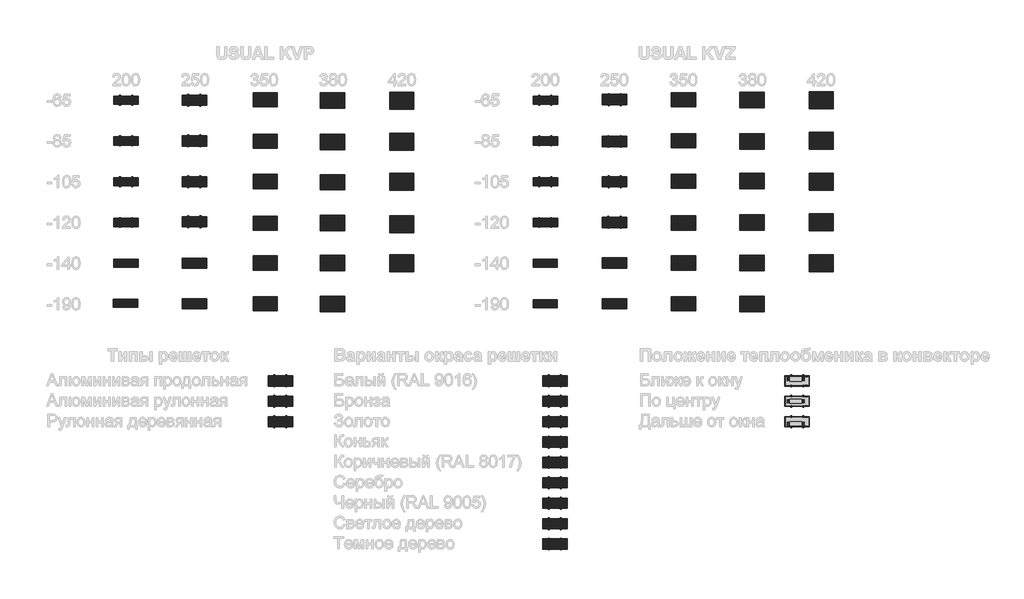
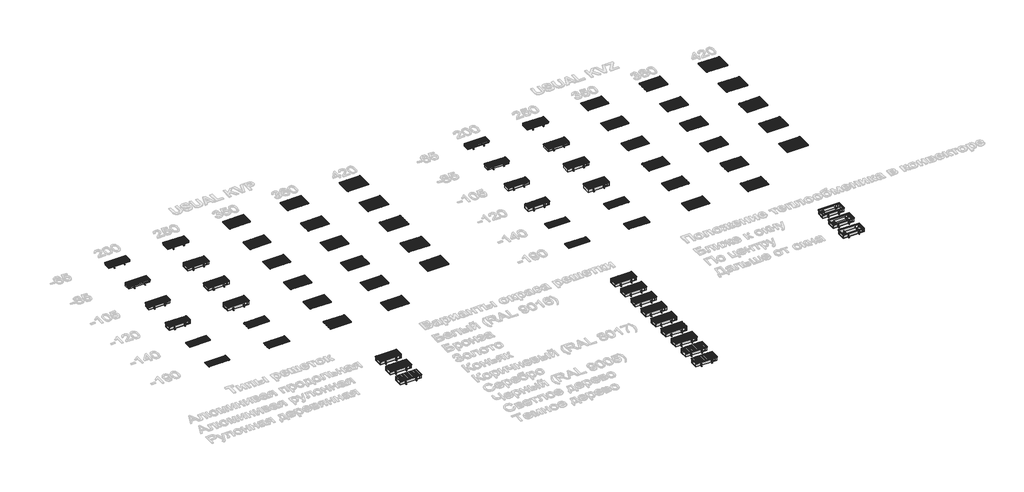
# One storey, part 1 of 12: 101 proxies.
"""IFC4 building model written with IfcOpenShell, lengths in millimetres."""

from ifc_helpers import new_model, si_unit, origin, place, context, project, spatial, transform, mapped, element, save
from components import mechanical_equipment_e06667c6, mechanical_equipment_3e8f2376, mechanical_equipment_2bb92c4f, mechanical_equipment_5972c187, mechanical_equipment_37fe95d5, mechanical_equipment_b3972e34, mechanical_equipment_829e7b9b, mechanical_equipment_6586b256, mechanical_equipment_ec1114a2, mechanical_equipment_845689bd, mechanical_equipment_a27507a9, mechanical_equipment_65e398eb, mechanical_equipment_b7342399, mechanical_equipment_46b1b714, mechanical_equipment_595e6932, mechanical_equipment_720d89d8, mechanical_equipment_f0117539, mechanical_equipment_2afb26c2, kvp_200_65_299f4ea4, kvp_200_85_9face046, kvp_250_65_a84a4c21, kvz_200_65_8321f284, kvz_200_85_5eb95e34, kvz_250_65_78995d62, kvz_250_85_78aa8f4b

model = new_model("IFC4")

# Units and contexts
model_context = context("Model", 3, world=origin())
ifc_project = project(units=[si_unit("LENGTHUNIT", "METRE", prefix="MILLI")], contexts=[model_context])

# Site, building, storey
site = spatial("IfcSite", under=ifc_project)
building = spatial("IfcBuilding", under=site)
storey = spatial("IfcBuildingStorey", under=building, Name="Уровень 1", Elevation=0.0)

# Proxies
placement = place(None, origin())
mechanical_equipment_shape = mechanical_equipment_e06667c6(model_context)
element("IfcBuildingElementProxy", 1, Name="♦ : РАП_Алюминиевая продольная/ Белый RAL 9016", ObjectType="♦ : РАП_Алюминиевая продольная/ Белый RAL 9016", at=placement, inside=storey, context=model_context, shape_type="MappedRepresentation", body=[
    mapped(mechanical_equipment_shape, transform((1678.8586562, -5908.0213186, 0.0), x_axis=(1.0, 0.0, 0.0), y_axis=(0.0, 1.0, 0.0), z_axis=(0.0, 0.0, 1.0))),
])
element("IfcBuildingElementProxy", 2, Name="♦ : РАП_Алюминиевая продольная/ Белый RAL 9016", ObjectType="♦ : РАП_Алюминиевая продольная/ Белый RAL 9016", at=placement, inside=storey, context=model_context, shape_type="MappedRepresentation", body=[
    mapped(mechanical_equipment_shape, transform((1678.8586562, -6908.0213186, 0.0), x_axis=(1.0, 0.0, 0.0), y_axis=(0.0, 1.0, 0.0), z_axis=(0.0, 0.0, 1.0))),
])
element("IfcBuildingElementProxy", 3, Name="♦ : РАП_Алюминиевая продольная/ Белый RAL 9016", ObjectType="♦ : РАП_Алюминиевая продольная/ Белый RAL 9016", at=placement, inside=storey, context=model_context, shape_type="MappedRepresentation", body=[
    mapped(mechanical_equipment_shape, transform((1678.8586562, -7908.0213186, 0.0), x_axis=(1.0, 0.0, 0.0), y_axis=(0.0, 1.0, 0.0), z_axis=(0.0, 0.0, 1.0))),
])
element("IfcBuildingElementProxy", 4, Name="♦ : РАП_Алюминиевая продольная/ Белый RAL 9016", ObjectType="♦ : РАП_Алюминиевая продольная/ Белый RAL 9016", at=placement, inside=storey, context=model_context, shape_type="MappedRepresentation", body=[
    mapped(mechanical_equipment_shape, transform((1678.8586562, -8908.0213186, 0.0), x_axis=(1.0, 0.0, 0.0), y_axis=(0.0, 1.0, 0.0), z_axis=(0.0, 0.0, 1.0))),
])
element("IfcBuildingElementProxy", 5, Name="♦ : РАП_Алюминиевая продольная/ Белый RAL 9016", ObjectType="♦ : РАП_Алюминиевая продольная/ Белый RAL 9016", at=placement, inside=storey, context=model_context, shape_type="MappedRepresentation", body=[
    mapped(mechanical_equipment_shape, transform((11963.3373668, -5907.6889585, 0.0), x_axis=(1.0, 0.0, 0.0), y_axis=(0.0, 1.0, 0.0), z_axis=(0.0, 0.0, 1.0))),
])
element("IfcBuildingElementProxy", 6, Name="♦ : РАП_Алюминиевая продольная/ Белый RAL 9016", ObjectType="♦ : РАП_Алюминиевая продольная/ Белый RAL 9016", at=placement, inside=storey, context=model_context, shape_type="MappedRepresentation", body=[
    mapped(mechanical_equipment_shape, transform((11963.3373668, -6907.6889585, 0.0), x_axis=(1.0, 0.0, 0.0), y_axis=(0.0, 1.0, 0.0), z_axis=(0.0, 0.0, 1.0))),
])
element("IfcBuildingElementProxy", 7, Name="♦ : РАП_Алюминиевая продольная/ Белый RAL 9016", ObjectType="♦ : РАП_Алюминиевая продольная/ Белый RAL 9016", at=placement, inside=storey, context=model_context, shape_type="MappedRepresentation", body=[
    mapped(mechanical_equipment_shape, transform((11963.3373668, -7907.6889585, 0.0), x_axis=(1.0, 0.0, 0.0), y_axis=(0.0, 1.0, 0.0), z_axis=(0.0, 0.0, 1.0))),
])
element("IfcBuildingElementProxy", 8, Name="♦ : РАП_Алюминиевая продольная/ Белый RAL 9016", ObjectType="♦ : РАП_Алюминиевая продольная/ Белый RAL 9016", at=placement, inside=storey, context=model_context, shape_type="MappedRepresentation", body=[
    mapped(mechanical_equipment_shape, transform((11963.3373668, -8907.6889585, 0.0), x_axis=(1.0, 0.0, 0.0), y_axis=(0.0, 1.0, 0.0), z_axis=(0.0, 0.0, 1.0))),
])
element("IfcBuildingElementProxy", 9, Name="♦ : РАП_Алюминиевая продольная/ Белый RAL 9016", ObjectType="♦ : РАП_Алюминиевая продольная/ Белый RAL 9016", at=placement, inside=storey, context=model_context, shape_type="MappedRepresentation", body=[
    mapped(mechanical_equipment_shape, transform((1678.8586562, -9903.1136263, 0.0), x_axis=(1.0, 0.0, 0.0), y_axis=(0.0, 1.0, 0.0), z_axis=(0.0, 0.0, 1.0))),
])
element("IfcBuildingElementProxy", 10, Name="♦ : РАП_Алюминиевая продольная/ Белый RAL 9016", ObjectType="♦ : РАП_Алюминиевая продольная/ Белый RAL 9016", at=placement, inside=storey, context=model_context, shape_type="MappedRepresentation", body=[
    mapped(mechanical_equipment_shape, transform((1667.4990621, -10887.3301613, 0.0), x_axis=(1.0, 0.0, 0.0), y_axis=(0.0, 1.0, 0.0), z_axis=(0.0, 0.0, 1.0))),
])
element("IfcBuildingElementProxy", 11, Name="♦ : РАП_Алюминиевая продольная/ Белый RAL 9016", ObjectType="♦ : РАП_Алюминиевая продольная/ Белый RAL 9016", at=placement, inside=storey, context=model_context, shape_type="MappedRepresentation", body=[
    mapped(mechanical_equipment_shape, transform((11963.3373668, -10902.7812662, 0.0), x_axis=(1.0, 0.0, 0.0), y_axis=(0.0, 1.0, 0.0), z_axis=(0.0, 0.0, 1.0))),
])
element("IfcBuildingElementProxy", 12, Name="♦ : РАП_Алюминиевая продольная/ Белый RAL 9016", ObjectType="♦ : РАП_Алюминиевая продольная/ Белый RAL 9016", at=placement, inside=storey, context=model_context, shape_type="MappedRepresentation", body=[
    mapped(mechanical_equipment_shape, transform((11963.3373668, -9902.7812662, 0.0), x_axis=(1.0, 0.0, 0.0), y_axis=(0.0, 1.0, 0.0), z_axis=(0.0, 0.0, 1.0))),
])
mechanical_equipment_2_shape = mechanical_equipment_3e8f2376(model_context)
element("IfcBuildingElementProxy", 13, Name="TECHNO_Конвектор встраиваемый_Usual_KVZ-200_85-105-120 : KVZ 200-105", ObjectType="TECHNO_Конвектор встраиваемый_Usual_KVZ-200_85-105-120 : KVZ 200-105", at=placement, inside=storey, context=model_context, shape_type="MappedRepresentation", body=[
    mapped(mechanical_equipment_2_shape, transform((11963.3373668, -7907.6889585, 0.0), x_axis=(1.0, 0.0, 0.0), y_axis=(0.0, 1.0, 0.0), z_axis=(0.0, 0.0, 1.0))),
])
mechanical_equipment_3_shape = mechanical_equipment_2bb92c4f(model_context)
element("IfcBuildingElementProxy", 14, Name="TECHNO_Конвектор встраиваемый_Usual_KVZ-200_85-105-120 : KVZ 200-120", ObjectType="TECHNO_Конвектор встраиваемый_Usual_KVZ-200_85-105-120 : KVZ 200-120", at=placement, inside=storey, context=model_context, shape_type="MappedRepresentation", body=[
    mapped(mechanical_equipment_3_shape, transform((11963.3373668, -8907.6889585, 0.0), x_axis=(1.0, 0.0, 0.0), y_axis=(0.0, 1.0, 0.0), z_axis=(0.0, 0.0, 1.0))),
])
mechanical_equipment_4_shape = mechanical_equipment_5972c187(model_context)
element("IfcBuildingElementProxy", 15, Name="♦ : РАП_Алюминиевая продольная/ Белый RAL 9016", ObjectType="♦ : РАП_Алюминиевая продольная/ Белый RAL 9016", at=placement, inside=storey, context=model_context, shape_type="MappedRepresentation", body=[
    mapped(mechanical_equipment_4_shape, transform((3356.4382565, -5907.7489204, 0.0), x_axis=(1.0, 0.0, 0.0), y_axis=(0.0, 1.0, 0.0), z_axis=(0.0, 0.0, 1.0))),
])
element("IfcBuildingElementProxy", 16, Name="♦ : РАП_Алюминиевая продольная/ Белый RAL 9016", ObjectType="♦ : РАП_Алюминиевая продольная/ Белый RAL 9016", at=placement, inside=storey, context=model_context, shape_type="MappedRepresentation", body=[
    mapped(mechanical_equipment_4_shape, transform((3356.4382565, -6907.7489204, 0.0), x_axis=(1.0, 0.0, 0.0), y_axis=(0.0, 1.0, 0.0), z_axis=(0.0, 0.0, 1.0))),
])
element("IfcBuildingElementProxy", 17, Name="♦ : РАП_Алюминиевая продольная/ Белый RAL 9016", ObjectType="♦ : РАП_Алюминиевая продольная/ Белый RAL 9016", at=placement, inside=storey, context=model_context, shape_type="MappedRepresentation", body=[
    mapped(mechanical_equipment_4_shape, transform((3356.4382565, -7907.7489204, 0.0), x_axis=(1.0, 0.0, 0.0), y_axis=(0.0, 1.0, 0.0), z_axis=(0.0, 0.0, 1.0))),
])
element("IfcBuildingElementProxy", 18, Name="♦ : РАП_Алюминиевая продольная/ Белый RAL 9016", ObjectType="♦ : РАП_Алюминиевая продольная/ Белый RAL 9016", at=placement, inside=storey, context=model_context, shape_type="MappedRepresentation", body=[
    mapped(mechanical_equipment_4_shape, transform((3356.4382565, -8893.4783322, 0.0), x_axis=(1.0, 0.0, 0.0), y_axis=(0.0, 1.0, 0.0), z_axis=(0.0, 0.0, 1.0))),
])
element("IfcBuildingElementProxy", 19, Name="♦ : РАП_Алюминиевая продольная/ Белый RAL 9016", ObjectType="♦ : РАП_Алюминиевая продольная/ Белый RAL 9016", at=placement, inside=storey, context=model_context, shape_type="MappedRepresentation", body=[
    mapped(mechanical_equipment_4_shape, transform((13662.3006135, -5893.145972, 0.0), x_axis=(1.0, 0.0, 0.0), y_axis=(0.0, 1.0, 0.0), z_axis=(0.0, 0.0, 1.0))),
])
element("IfcBuildingElementProxy", 20, Name="♦ : РАП_Алюминиевая продольная/ Белый RAL 9016", ObjectType="♦ : РАП_Алюминиевая продольная/ Белый RAL 9016", at=placement, inside=storey, context=model_context, shape_type="MappedRepresentation", body=[
    mapped(mechanical_equipment_4_shape, transform((13662.3006135, -6921.6871485, 0.0), x_axis=(1.0, 0.0, 0.0), y_axis=(0.0, 1.0, 0.0), z_axis=(0.0, 0.0, 1.0))),
])
element("IfcBuildingElementProxy", 21, Name="♦ : РАП_Алюминиевая продольная/ Белый RAL 9016", ObjectType="♦ : РАП_Алюминиевая продольная/ Белый RAL 9016", at=placement, inside=storey, context=model_context, shape_type="MappedRepresentation", body=[
    mapped(mechanical_equipment_4_shape, transform((13662.3006135, -7907.4165603, 0.0), x_axis=(1.0, 0.0, 0.0), y_axis=(0.0, 1.0, 0.0), z_axis=(0.0, 0.0, 1.0))),
])
element("IfcBuildingElementProxy", 22, Name="♦ : РАП_Алюминиевая продольная/ Белый RAL 9016", ObjectType="♦ : РАП_Алюминиевая продольная/ Белый RAL 9016", at=placement, inside=storey, context=model_context, shape_type="MappedRepresentation", body=[
    mapped(mechanical_equipment_4_shape, transform((13662.3006135, -8907.4165603, 0.0), x_axis=(1.0, 0.0, 0.0), y_axis=(0.0, 1.0, 0.0), z_axis=(0.0, 0.0, 1.0))),
])
element("IfcBuildingElementProxy", 23, Name="♦ : РАП_Алюминиевая продольная/ Белый RAL 9016", ObjectType="♦ : РАП_Алюминиевая продольная/ Белый RAL 9016", at=placement, inside=storey, context=model_context, shape_type="MappedRepresentation", body=[
    mapped(mechanical_equipment_4_shape, transform((3355.0272951, -10903.1136263, -3.7), x_axis=(1.0, 0.0, 0.0), y_axis=(0.0, 1.0, 0.0), z_axis=(0.0, 0.0, 1.0))),
])
element("IfcBuildingElementProxy", 24, Name="♦ : РАП_Алюминиевая продольная/ Белый RAL 9016", ObjectType="♦ : РАП_Алюминиевая продольная/ Белый RAL 9016", at=placement, inside=storey, context=model_context, shape_type="MappedRepresentation", body=[
    mapped(mechanical_equipment_4_shape, transform((3356.4382565, -9903.1136263, 0.0), x_axis=(1.0, 0.0, 0.0), y_axis=(0.0, 1.0, 0.0), z_axis=(0.0, 0.0, 1.0))),
])
element("IfcBuildingElementProxy", 25, Name="♦ : РАП_Алюминиевая продольная/ Белый RAL 9016", ObjectType="♦ : РАП_Алюминиевая продольная/ Белый RAL 9016", at=placement, inside=storey, context=model_context, shape_type="MappedRepresentation", body=[
    mapped(mechanical_equipment_4_shape, transform((13662.3006135, -9902.7812662, 0.0), x_axis=(1.0, 0.0, 0.0), y_axis=(0.0, 1.0, 0.0), z_axis=(0.0, 0.0, 1.0))),
])
element("IfcBuildingElementProxy", 26, Name="♦ : РАП_Алюминиевая продольная/ Белый RAL 9016", ObjectType="♦ : РАП_Алюминиевая продольная/ Белый RAL 9016", at=placement, inside=storey, context=model_context, shape_type="MappedRepresentation", body=[
    mapped(mechanical_equipment_4_shape, transform((13662.3006135, -10902.7812662, 0.0), x_axis=(1.0, 0.0, 0.0), y_axis=(0.0, 1.0, 0.0), z_axis=(0.0, 0.0, 1.0))),
])
element("IfcBuildingElementProxy", 27, Name="♦ : РАП_Алюминиевая продольная/ Белый RAL 9016", ObjectType="♦ : РАП_Алюминиевая продольная/ Белый RAL 9016", at=placement, inside=storey, context=model_context, shape_type="MappedRepresentation", body=[
    mapped(mechanical_equipment_4_shape, transform((12196.577441, -12794.989217, 0.0), x_axis=(1.0, 0.0, 0.0), y_axis=(0.0, 1.0, 0.0), z_axis=(0.0, 0.0, 1.0))),
])
element("IfcBuildingElementProxy", 28, Name="♦ : РАП_Алюминиевая продольная/ Белый RAL 9016", ObjectType="♦ : РАП_Алюминиевая продольная/ Белый RAL 9016", at=placement, inside=storey, context=model_context, shape_type="MappedRepresentation", body=[
    mapped(mechanical_equipment_4_shape, transform((5464.577441, -12794.989217, 0.0), x_axis=(1.0, 0.0, 0.0), y_axis=(0.0, 1.0, 0.0), z_axis=(0.0, 0.0, 1.0))),
])
mechanical_equipment_5_shape = mechanical_equipment_37fe95d5(model_context)
element("IfcBuildingElementProxy", 29, Name="TECHNO_Конвектор встраиваемый_Usual_KVZ-250_85-105-120 : KVZ 250-105", ObjectType="TECHNO_Конвектор встраиваемый_Usual_KVZ-250_85-105-120 : KVZ 250-105", at=placement, inside=storey, context=model_context, shape_type="MappedRepresentation", body=[
    mapped(mechanical_equipment_5_shape, transform((13662.3006135, -7907.4165603, 0.0), x_axis=(1.0, 0.0, 0.0), y_axis=(0.0, 1.0, 0.0), z_axis=(0.0, 0.0, 1.0))),
])
mechanical_equipment_6_shape = mechanical_equipment_b3972e34(model_context)
element("IfcBuildingElementProxy", 30, Name="TECHNO_Конвектор встраиваемый_Usual_KVZ-250_85-105-120 : KVZ 250-120", ObjectType="TECHNO_Конвектор встраиваемый_Usual_KVZ-250_85-105-120 : KVZ 250-120", at=placement, inside=storey, context=model_context, shape_type="MappedRepresentation", body=[
    mapped(mechanical_equipment_6_shape, transform((13662.3006135, -8907.4165603, 0.0), x_axis=(1.0, 0.0, 0.0), y_axis=(0.0, 1.0, 0.0), z_axis=(0.0, 0.0, 1.0))),
])
mechanical_equipment_7_shape = mechanical_equipment_829e7b9b(model_context)
element("IfcBuildingElementProxy", 31, Name="♦ : РАП_Алюминиевая продольная/ Белый RAL 9016", ObjectType="♦ : РАП_Алюминиевая продольная/ Белый RAL 9016", at=placement, inside=storey, context=model_context, shape_type="MappedRepresentation", body=[
    mapped(mechanical_equipment_7_shape, transform((5094.2112296, -5900.6136263, 0.0), x_axis=(1.0, 0.0, 0.0), y_axis=(0.0, 1.0, 0.0), z_axis=(0.0, 0.0, 1.0))),
])
element("IfcBuildingElementProxy", 32, Name="♦ : РАП_Алюминиевая продольная/ Белый RAL 9016", ObjectType="♦ : РАП_Алюминиевая продольная/ Белый RAL 9016", at=placement, inside=storey, context=model_context, shape_type="MappedRepresentation", body=[
    mapped(mechanical_equipment_7_shape, transform((5094.2112296, -6914.8886263, 0.0), x_axis=(1.0, 0.0, 0.0), y_axis=(0.0, 1.0, 0.0), z_axis=(0.0, 0.0, 1.0))),
])
element("IfcBuildingElementProxy", 33, Name="♦ : РАП_Алюминиевая продольная/ Белый RAL 9016", ObjectType="♦ : РАП_Алюминиевая продольная/ Белый RAL 9016", at=placement, inside=storey, context=model_context, shape_type="MappedRepresentation", body=[
    mapped(mechanical_equipment_7_shape, transform((5095.4112296, -7900.6136263, 0.0), x_axis=(1.0, 0.0, 0.0), y_axis=(0.0, 1.0, 0.0), z_axis=(0.0, 0.0, 1.0))),
])
element("IfcBuildingElementProxy", 34, Name="♦ : РАП_Алюминиевая продольная/ Белый RAL 9016", ObjectType="♦ : РАП_Алюминиевая продольная/ Белый RAL 9016", at=placement, inside=storey, context=model_context, shape_type="MappedRepresentation", body=[
    mapped(mechanical_equipment_7_shape, transform((5095.4112296, -8929.1636263, 0.0), x_axis=(1.0, 0.0, 0.0), y_axis=(0.0, 1.0, 0.0), z_axis=(0.0, 0.0, 1.0))),
])
element("IfcBuildingElementProxy", 35, Name="♦ : РАП_Алюминиевая продольная/ Белый RAL 9016", ObjectType="♦ : РАП_Алюминиевая продольная/ Белый RAL 9016", at=placement, inside=storey, context=model_context, shape_type="MappedRepresentation", body=[
    mapped(mechanical_equipment_7_shape, transform((15351.7158664, -5900.2812662, 0.0), x_axis=(1.0, 0.0, 0.0), y_axis=(0.0, 1.0, 0.0), z_axis=(0.0, 0.0, 1.0))),
])
element("IfcBuildingElementProxy", 36, Name="♦ : РАП_Алюминиевая продольная/ Белый RAL 9016", ObjectType="♦ : РАП_Алюминиевая продольная/ Белый RAL 9016", at=placement, inside=storey, context=model_context, shape_type="MappedRepresentation", body=[
    mapped(mechanical_equipment_7_shape, transform((15351.7158664, -6900.2812662, 0.0), x_axis=(1.0, 0.0, 0.0), y_axis=(0.0, 1.0, 0.0), z_axis=(0.0, 0.0, 1.0))),
])
element("IfcBuildingElementProxy", 37, Name="♦ : РАП_Алюминиевая продольная/ Белый RAL 9016", ObjectType="♦ : РАП_Алюминиевая продольная/ Белый RAL 9016", at=placement, inside=storey, context=model_context, shape_type="MappedRepresentation", body=[
    mapped(mechanical_equipment_7_shape, transform((15351.7158664, -7900.2812662, 0.0), x_axis=(1.0, 0.0, 0.0), y_axis=(0.0, 1.0, 0.0), z_axis=(0.0, 0.0, 1.0))),
])
element("IfcBuildingElementProxy", 38, Name="♦ : РАП_Алюминиевая продольная/ Белый RAL 9016", ObjectType="♦ : РАП_Алюминиевая продольная/ Белый RAL 9016", at=placement, inside=storey, context=model_context, shape_type="MappedRepresentation", body=[
    mapped(mechanical_equipment_7_shape, transform((15351.7158664, -8919.8989417, 0.0), x_axis=(1.0, 0.0, 0.0), y_axis=(0.0, 1.0, 0.0), z_axis=(0.0, 0.0, 1.0))),
])
element("IfcBuildingElementProxy", 39, Name="♦ : РАП_Алюминиевая продольная/ Белый RAL 9016", ObjectType="♦ : РАП_Алюминиевая продольная/ Белый RAL 9016", at=placement, inside=storey, context=model_context, shape_type="MappedRepresentation", body=[
    mapped(mechanical_equipment_7_shape, transform((5095.4112296, -10903.1136263, 0.0), x_axis=(1.0, 0.0, 0.0), y_axis=(0.0, 1.0, 0.0), z_axis=(0.0, 0.0, 1.0))),
])
element("IfcBuildingElementProxy", 40, Name="♦ : РАП_Алюминиевая продольная/ Белый RAL 9016", ObjectType="♦ : РАП_Алюминиевая продольная/ Белый RAL 9016", at=placement, inside=storey, context=model_context, shape_type="MappedRepresentation", body=[
    mapped(mechanical_equipment_7_shape, transform((5095.4112296, -9903.1136263, 0.0), x_axis=(1.0, 0.0, 0.0), y_axis=(0.0, 1.0, 0.0), z_axis=(0.0, 0.0, 1.0))),
])
element("IfcBuildingElementProxy", 41, Name="♦ : РАП_Алюминиевая продольная/ Белый RAL 9016", ObjectType="♦ : РАП_Алюминиевая продольная/ Белый RAL 9016", at=placement, inside=storey, context=model_context, shape_type="MappedRepresentation", body=[
    mapped(mechanical_equipment_7_shape, transform((15351.7158664, -10902.7812662, 0.0), x_axis=(1.0, 0.0, 0.0), y_axis=(0.0, 1.0, 0.0), z_axis=(0.0, 0.0, 1.0))),
])
element("IfcBuildingElementProxy", 42, Name="♦ : РАП_Алюминиевая продольная/ Белый RAL 9016", ObjectType="♦ : РАП_Алюминиевая продольная/ Белый RAL 9016", at=placement, inside=storey, context=model_context, shape_type="MappedRepresentation", body=[
    mapped(mechanical_equipment_7_shape, transform((15351.7158664, -9902.7812662, 0.0), x_axis=(1.0, 0.0, 0.0), y_axis=(0.0, 1.0, 0.0), z_axis=(0.0, 0.0, 1.0))),
])
mechanical_equipment_8_shape = mechanical_equipment_6586b256(model_context)
element("IfcBuildingElementProxy", 43, Name="♦ : РАП_Алюминиевая продольная/ Белый RAL 9016", ObjectType="♦ : РАП_Алюминиевая продольная/ Белый RAL 9016", at=placement, inside=storey, context=model_context, shape_type="MappedRepresentation", body=[
    mapped(mechanical_equipment_8_shape, transform((6740.5682701, -5916.1386263, 0.0), x_axis=(1.0, 0.0, 0.0), y_axis=(0.0, 1.0, 0.0), z_axis=(0.0, 0.0, 1.0))),
])
element("IfcBuildingElementProxy", 44, Name="♦ : РАП_Алюминиевая продольная/ Белый RAL 9016", ObjectType="♦ : РАП_Алюминиевая продольная/ Белый RAL 9016", at=placement, inside=storey, context=model_context, shape_type="MappedRepresentation", body=[
    mapped(mechanical_equipment_8_shape, transform((17037.2497029, -5900.2812662, 0.0), x_axis=(1.0, 0.0, 0.0), y_axis=(0.0, 1.0, 0.0), z_axis=(0.0, 0.0, 1.0))),
])
mechanical_equipment_9_shape = mechanical_equipment_ec1114a2(model_context)
element("IfcBuildingElementProxy", 45, Name="♦ : РАП_Алюминиевая продольная/ Белый RAL 9016", ObjectType="♦ : РАП_Алюминиевая продольная/ Белый RAL 9016", at=placement, inside=storey, context=model_context, shape_type="MappedRepresentation", body=[
    mapped(mechanical_equipment_9_shape, transform((6740.5682701, -6932.7343159, 0.0), x_axis=(1.0, 0.0, 0.0), y_axis=(0.0, 1.0, 0.0), z_axis=(0.0, 0.0, 1.0))),
])
element("IfcBuildingElementProxy", 46, Name="♦ : РАП_Алюминиевая продольная/ Белый RAL 9016", ObjectType="♦ : РАП_Алюминиевая продольная/ Белый RAL 9016", at=placement, inside=storey, context=model_context, shape_type="MappedRepresentation", body=[
    mapped(mechanical_equipment_9_shape, transform((6740.5682701, -7919.8860401, 0.0), x_axis=(1.0, 0.0, 0.0), y_axis=(0.0, 1.0, 0.0), z_axis=(0.0, 0.0, 1.0))),
])
element("IfcBuildingElementProxy", 47, Name="♦ : РАП_Алюминиевая продольная/ Белый RAL 9016", ObjectType="♦ : РАП_Алюминиевая продольная/ Белый RAL 9016", at=placement, inside=storey, context=model_context, shape_type="MappedRepresentation", body=[
    mapped(mechanical_equipment_9_shape, transform((6740.5682701, -8919.8860401, 0.0), x_axis=(1.0, 0.0, 0.0), y_axis=(0.0, 1.0, 0.0), z_axis=(0.0, 0.0, 1.0))),
])
element("IfcBuildingElementProxy", 48, Name="♦ : РАП_Алюминиевая продольная/ Белый RAL 9016", ObjectType="♦ : РАП_Алюминиевая продольная/ Белый RAL 9016", at=placement, inside=storey, context=model_context, shape_type="MappedRepresentation", body=[
    mapped(mechanical_equipment_9_shape, transform((17037.2497029, -6919.55368, 0.0), x_axis=(1.0, 0.0, 0.0), y_axis=(0.0, 1.0, 0.0), z_axis=(0.0, 0.0, 1.0))),
])
element("IfcBuildingElementProxy", 49, Name="♦ : РАП_Алюминиевая продольная/ Белый RAL 9016", ObjectType="♦ : РАП_Алюминиевая продольная/ Белый RAL 9016", at=placement, inside=storey, context=model_context, shape_type="MappedRepresentation", body=[
    mapped(mechanical_equipment_9_shape, transform((17037.2497029, -7893.8571282, 0.0), x_axis=(1.0, 0.0, 0.0), y_axis=(0.0, 1.0, 0.0), z_axis=(0.0, 0.0, 1.0))),
])
element("IfcBuildingElementProxy", 50, Name="♦ : РАП_Алюминиевая продольная/ Белый RAL 9016", ObjectType="♦ : РАП_Алюминиевая продольная/ Белый RAL 9016", at=placement, inside=storey, context=model_context, shape_type="MappedRepresentation", body=[
    mapped(mechanical_equipment_9_shape, transform((17037.2497029, -8906.7054041, 0.0), x_axis=(1.0, 0.0, 0.0), y_axis=(0.0, 1.0, 0.0), z_axis=(0.0, 0.0, 1.0))),
])
element("IfcBuildingElementProxy", 51, Name="♦ : РАП_Алюминиевая продольная/ Белый RAL 9016", ObjectType="♦ : РАП_Алюминиевая продольная/ Белый RAL 9016", at=placement, inside=storey, context=model_context, shape_type="MappedRepresentation", body=[
    mapped(mechanical_equipment_9_shape, transform((6740.5682701, -9903.1136263, -2.0), x_axis=(1.0, 0.0, 0.0), y_axis=(0.0, 1.0, 0.0), z_axis=(0.0, 0.0, 1.0))),
])
element("IfcBuildingElementProxy", 52, Name="♦ : РАП_Алюминиевая продольная/ Белый RAL 9016", ObjectType="♦ : РАП_Алюминиевая продольная/ Белый RAL 9016", at=placement, inside=storey, context=model_context, shape_type="MappedRepresentation", body=[
    mapped(mechanical_equipment_9_shape, transform((6740.5682701, -10903.1136263, -2.0), x_axis=(1.0, 0.0, 0.0), y_axis=(0.0, 1.0, 0.0), z_axis=(0.0, 0.0, 1.0))),
])
element("IfcBuildingElementProxy", 53, Name="♦ : РАП_Алюминиевая продольная/ Белый RAL 9016", ObjectType="♦ : РАП_Алюминиевая продольная/ Белый RAL 9016", at=placement, inside=storey, context=model_context, shape_type="MappedRepresentation", body=[
    mapped(mechanical_equipment_9_shape, transform((17037.2497029, -10902.7812662, 0.0), x_axis=(1.0, 0.0, 0.0), y_axis=(0.0, 1.0, 0.0), z_axis=(0.0, 0.0, 1.0))),
])
element("IfcBuildingElementProxy", 54, Name="♦ : РАП_Алюминиевая продольная/ Белый RAL 9016", ObjectType="♦ : РАП_Алюминиевая продольная/ Белый RAL 9016", at=placement, inside=storey, context=model_context, shape_type="MappedRepresentation", body=[
    mapped(mechanical_equipment_9_shape, transform((17037.2497029, -9902.7812662, 0.0), x_axis=(1.0, 0.0, 0.0), y_axis=(0.0, 1.0, 0.0), z_axis=(0.0, 0.0, 1.0))),
])
mechanical_equipment_10_shape = mechanical_equipment_845689bd(model_context)
element("IfcBuildingElementProxy", 55, Name="♦ : РАП_Алюминиевая продольная/ Белый RAL 9016", ObjectType="♦ : РАП_Алюминиевая продольная/ Белый RAL 9016", at=placement, inside=storey, context=model_context, shape_type="MappedRepresentation", body=[
    mapped(mechanical_equipment_10_shape, transform((8442.5540144, -5921.9550056, 0.0), x_axis=(1.0, 0.0, 0.0), y_axis=(0.0, 1.0, 0.0), z_axis=(0.0, 0.0, 1.0))),
])
element("IfcBuildingElementProxy", 56, Name="♦ : РАП_Алюминиевая продольная/ Белый RAL 9016", ObjectType="♦ : РАП_Алюминиевая продольная/ Белый RAL 9016", at=placement, inside=storey, context=model_context, shape_type="MappedRepresentation", body=[
    mapped(mechanical_equipment_10_shape, transform((8442.5540144, -6921.9550056, 0.0), x_axis=(1.0, 0.0, 0.0), y_axis=(0.0, 1.0, 0.0), z_axis=(0.0, 0.0, 1.0))),
])
element("IfcBuildingElementProxy", 57, Name="♦ : РАП_Алюминиевая продольная/ Белый RAL 9016", ObjectType="♦ : РАП_Алюминиевая продольная/ Белый RAL 9016", at=placement, inside=storey, context=model_context, shape_type="MappedRepresentation", body=[
    mapped(mechanical_equipment_10_shape, transform((8442.5540144, -7907.7274194, 0.0), x_axis=(1.0, 0.0, 0.0), y_axis=(0.0, 1.0, 0.0), z_axis=(0.0, 0.0, 1.0))),
])
element("IfcBuildingElementProxy", 58, Name="♦ : РАП_Алюминиевая продольная/ Белый RAL 9016", ObjectType="♦ : РАП_Алюминиевая продольная/ Белый RAL 9016", at=placement, inside=storey, context=model_context, shape_type="MappedRepresentation", body=[
    mapped(mechanical_equipment_10_shape, transform((8441.3540144, -8950.410178, 0.0), x_axis=(1.0, 0.0, 0.0), y_axis=(0.0, 1.0, 0.0), z_axis=(0.0, 0.0, 1.0))),
])
element("IfcBuildingElementProxy", 59, Name="♦ : РАП_Алюминиевая продольная/ Белый RAL 9016", ObjectType="♦ : РАП_Алюминиевая продольная/ Белый RAL 9016", at=placement, inside=storey, context=model_context, shape_type="MappedRepresentation", body=[
    mapped(mechanical_equipment_10_shape, transform((8441.3540144, -9907.7274194, 0.0), x_axis=(1.0, 0.0, 0.0), y_axis=(0.0, 1.0, 0.0), z_axis=(0.0, 0.0, 1.0))),
])
element("IfcBuildingElementProxy", 60, Name="♦ : РАП_Алюминиевая продольная/ Белый RAL 9016", ObjectType="♦ : РАП_Алюминиевая продольная/ Белый RAL 9016", at=placement, inside=storey, context=model_context, shape_type="MappedRepresentation", body=[
    mapped(mechanical_equipment_10_shape, transform((18731.7167923, -5907.3950593, 0.0), x_axis=(1.0, 0.0, 0.0), y_axis=(0.0, 1.0, 0.0), z_axis=(0.0, 0.0, 1.0))),
])
element("IfcBuildingElementProxy", 61, Name="♦ : РАП_Алюминиевая продольная/ Белый RAL 9016", ObjectType="♦ : РАП_Алюминиевая продольная/ Белый RAL 9016", at=placement, inside=storey, context=model_context, shape_type="MappedRepresentation", body=[
    mapped(mechanical_equipment_10_shape, transform((18731.7167923, -6907.3950593, 0.0), x_axis=(1.0, 0.0, 0.0), y_axis=(0.0, 1.0, 0.0), z_axis=(0.0, 0.0, 1.0))),
])
element("IfcBuildingElementProxy", 62, Name="♦ : РАП_Алюминиевая продольная/ Белый RAL 9016", ObjectType="♦ : РАП_Алюминиевая продольная/ Белый RAL 9016", at=placement, inside=storey, context=model_context, shape_type="MappedRepresentation", body=[
    mapped(mechanical_equipment_10_shape, transform((18731.7167923, -7907.3950593, 0.0), x_axis=(1.0, 0.0, 0.0), y_axis=(0.0, 1.0, 0.0), z_axis=(0.0, 0.0, 1.0))),
])
element("IfcBuildingElementProxy", 63, Name="♦ : РАП_Алюминиевая продольная/ Белый RAL 9016", ObjectType="♦ : РАП_Алюминиевая продольная/ Белый RAL 9016", at=placement, inside=storey, context=model_context, shape_type="MappedRepresentation", body=[
    mapped(mechanical_equipment_10_shape, transform((18732.9167923, -8907.3950593, 0.0), x_axis=(1.0, 0.0, 0.0), y_axis=(0.0, 1.0, 0.0), z_axis=(0.0, 0.0, 1.0))),
])
element("IfcBuildingElementProxy", 64, Name="♦ : РАП_Алюминиевая продольная/ Белый RAL 9016", ObjectType="♦ : РАП_Алюминиевая продольная/ Белый RAL 9016", at=placement, inside=storey, context=model_context, shape_type="MappedRepresentation", body=[
    mapped(mechanical_equipment_10_shape, transform((18732.9167923, -9907.3950593, 0.0), x_axis=(1.0, 0.0, 0.0), y_axis=(0.0, 1.0, 0.0), z_axis=(0.0, 0.0, 1.0))),
])
mechanical_equipment_11_shape = mechanical_equipment_a27507a9(model_context)
element("IfcBuildingElementProxy", 65, Name="TECHNO_Конвектор встраиваемый_Usual_KVP-200_85-105-120 : KVP 200-105", ObjectType="TECHNO_Конвектор встраиваемый_Usual_KVP-200_85-105-120 : KVP 200-105", at=placement, inside=storey, context=model_context, shape_type="MappedRepresentation", body=[
    mapped(mechanical_equipment_11_shape, transform((1678.8586562, -7908.0213186, 0.0), x_axis=(1.0, 0.0, 0.0), y_axis=(0.0, 1.0, 0.0), z_axis=(0.0, 0.0, 1.0))),
])
mechanical_equipment_12_shape = mechanical_equipment_65e398eb(model_context)
element("IfcBuildingElementProxy", 66, Name="TECHNO_Конвектор встраиваемый_Usual_KVP-200_85-105-120 : KVP 200-120", ObjectType="TECHNO_Конвектор встраиваемый_Usual_KVP-200_85-105-120 : KVP 200-120", at=placement, inside=storey, context=model_context, shape_type="MappedRepresentation", body=[
    mapped(mechanical_equipment_12_shape, transform((1678.8586562, -8908.0213186, 0.0), x_axis=(1.0, 0.0, 0.0), y_axis=(0.0, 1.0, 0.0), z_axis=(0.0, 0.0, 1.0))),
])
mechanical_equipment_13_shape = mechanical_equipment_b7342399(model_context)
element("IfcBuildingElementProxy", 67, Name="TECHNO_Конвектор встраиваемый_Usual_KVP-250_85-105-120 : KVP 250-105", ObjectType="TECHNO_Конвектор встраиваемый_Usual_KVP-250_85-105-120 : KVP 250-105", at=placement, inside=storey, context=model_context, shape_type="MappedRepresentation", body=[
    mapped(mechanical_equipment_13_shape, transform((3356.4382565, -6907.7489204, 0.0), x_axis=(1.0, 0.0, 0.0), y_axis=(0.0, 1.0, 0.0), z_axis=(0.0, 0.0, 1.0))),
])
element("IfcBuildingElementProxy", 68, Name="TECHNO_Конвектор встраиваемый_Usual_KVP-250_85-105-120 : KVP 250-105", ObjectType="TECHNO_Конвектор встраиваемый_Usual_KVP-250_85-105-120 : KVP 250-105", at=placement, inside=storey, context=model_context, shape_type="MappedRepresentation", body=[
    mapped(mechanical_equipment_13_shape, transform((3356.4382565, -7907.7489204, 0.0), x_axis=(1.0, 0.0, 0.0), y_axis=(0.0, 1.0, 0.0), z_axis=(0.0, 0.0, 1.0))),
])
mechanical_equipment_14_shape = mechanical_equipment_46b1b714(model_context)
element("IfcBuildingElementProxy", 69, Name="TECHNO_Конвектор встраиваемый_Usual_KVP-250_85-105-120 : KVP 250-120", ObjectType="TECHNO_Конвектор встраиваемый_Usual_KVP-250_85-105-120 : KVP 250-120", at=placement, inside=storey, context=model_context, shape_type="MappedRepresentation", body=[
    mapped(mechanical_equipment_14_shape, transform((3356.4382565, -8893.4783322, 0.0), x_axis=(1.0, 0.0, 0.0), y_axis=(0.0, 1.0, 0.0), z_axis=(0.0, 0.0, 1.0))),
])
element("IfcBuildingElementProxy", 70, Name="TECHNO_Конвектор встраиваемый_Usual_KVP-250_85-105-120 : KVP 250-120", ObjectType="TECHNO_Конвектор встраиваемый_Usual_KVP-250_85-105-120 : KVP 250-120", at=placement, inside=storey, context=model_context, shape_type="MappedRepresentation", body=[
    mapped(mechanical_equipment_14_shape, transform((5464.577441, -12794.989217, 0.0), x_axis=(1.0, 0.0, 0.0), y_axis=(0.0, 1.0, 0.0), z_axis=(0.0, 0.0, 1.0))),
])
element("IfcBuildingElementProxy", 71, Name="TECHNO_Конвектор встраиваемый_Usual_KVP-250_85-105-120 : KVP 250-120", ObjectType="TECHNO_Конвектор встраиваемый_Usual_KVP-250_85-105-120 : KVP 250-120", at=placement, inside=storey, context=model_context, shape_type="MappedRepresentation", body=[
    mapped(mechanical_equipment_14_shape, transform((12196.577441, -12794.989217, 0.0), x_axis=(1.0, 0.0, 0.0), y_axis=(0.0, 1.0, 0.0), z_axis=(0.0, 0.0, 1.0))),
])
mechanical_equipment_15_shape = mechanical_equipment_595e6932(model_context)
element("IfcBuildingElementProxy", 72, Name="♦ : РРД_Рулонная деревянная/ Светлое дерево", ObjectType="♦ : РРД_Рулонная деревянная/ Светлое дерево", at=placement, inside=storey, context=model_context, shape_type="MappedRepresentation", body=[
    mapped(mechanical_equipment_15_shape, transform((5464.577441, -13794.989217, 0.0), x_axis=(1.0, 0.0, 0.0), y_axis=(0.0, 1.0, 0.0), z_axis=(0.0, 0.0, 1.0))),
])
element("IfcBuildingElementProxy", 73, Name="♦ : РРД_Рулонная деревянная/ Светлое дерево", ObjectType="♦ : РРД_Рулонная деревянная/ Светлое дерево", at=placement, inside=storey, context=model_context, shape_type="MappedRepresentation", body=[
    mapped(mechanical_equipment_15_shape, transform((12196.577441, -16294.989217, 0.0), x_axis=(1.0, 0.0, 0.0), y_axis=(0.0, 1.0, 0.0), z_axis=(0.0, 0.0, 1.0))),
])
element("IfcBuildingElementProxy", 74, Name="TECHNO_Конвектор встраиваемый_Usual_KVP-250_85-105-120 : KVP 250-120", ObjectType="TECHNO_Конвектор встраиваемый_Usual_KVP-250_85-105-120 : KVP 250-120", at=placement, inside=storey, context=model_context, shape_type="MappedRepresentation", body=[
    mapped(mechanical_equipment_14_shape, transform((5464.577441, -13294.989217, 0.0), x_axis=(1.0, 0.0, 0.0), y_axis=(0.0, 1.0, 0.0), z_axis=(0.0, 0.0, 1.0))),
])
mechanical_equipment_16_shape = mechanical_equipment_720d89d8(model_context)
element("IfcBuildingElementProxy", 75, Name="♦ : РРА_Рулонная алюминиевая/ Белый RAL 9016", ObjectType="♦ : РРА_Рулонная алюминиевая/ Белый RAL 9016", at=placement, inside=storey, context=model_context, shape_type="MappedRepresentation", body=[
    mapped(mechanical_equipment_16_shape, transform((5464.577441, -13294.989217, 0.0), x_axis=(1.0, 0.0, 0.0), y_axis=(0.0, 1.0, 0.0), z_axis=(0.0, 0.0, 1.0))),
])
element("IfcBuildingElementProxy", 76, Name="TECHNO_Конвектор встраиваемый_Usual_KVP-250_85-105-120 : KVP 250-120", ObjectType="TECHNO_Конвектор встраиваемый_Usual_KVP-250_85-105-120 : KVP 250-120", at=placement, inside=storey, context=model_context, shape_type="MappedRepresentation", body=[
    mapped(mechanical_equipment_14_shape, transform((5464.577441, -13794.989217, 0.0), x_axis=(1.0, 0.0, 0.0), y_axis=(0.0, 1.0, 0.0), z_axis=(0.0, 0.0, 1.0))),
])
element("IfcBuildingElementProxy", 77, Name="TECHNO_Конвектор встраиваемый_Usual_KVP-250_85-105-120 : KVP 250-120", ObjectType="TECHNO_Конвектор встраиваемый_Usual_KVP-250_85-105-120 : KVP 250-120", at=placement, inside=storey, context=model_context, shape_type="MappedRepresentation", body=[
    mapped(mechanical_equipment_14_shape, transform((12196.577441, -16294.989217, 0.0), x_axis=(1.0, 0.0, 0.0), y_axis=(0.0, 1.0, 0.0), z_axis=(0.0, 0.0, 1.0))),
])
element("IfcBuildingElementProxy", 78, Name="TECHNO_Конвектор встраиваемый_Usual_KVP-250_85-105-120 : KVP 250-120", ObjectType="TECHNO_Конвектор встраиваемый_Usual_KVP-250_85-105-120 : KVP 250-120", at=placement, inside=storey, context=model_context, shape_type="MappedRepresentation", body=[
    mapped(mechanical_equipment_14_shape, transform((12196.577441, -13294.989217, 0.0), x_axis=(1.0, 0.0, 0.0), y_axis=(0.0, 1.0, 0.0), z_axis=(0.0, 0.0, 1.0))),
])
element("IfcBuildingElementProxy", 79, Name="♦ : РАП_Алюминиевая продольная/ Бронза", ObjectType="♦ : РАП_Алюминиевая продольная/ Бронза", at=placement, inside=storey, context=model_context, shape_type="MappedRepresentation", body=[
    mapped(mechanical_equipment_4_shape, transform((12196.577441, -13294.989217, 0.0), x_axis=(1.0, 0.0, 0.0), y_axis=(0.0, 1.0, 0.0), z_axis=(0.0, 0.0, 1.0))),
])
element("IfcBuildingElementProxy", 80, Name="TECHNO_Конвектор встраиваемый_Usual_KVP-250_85-105-120 : KVP 250-120", ObjectType="TECHNO_Конвектор встраиваемый_Usual_KVP-250_85-105-120 : KVP 250-120", at=placement, inside=storey, context=model_context, shape_type="MappedRepresentation", body=[
    mapped(mechanical_equipment_14_shape, transform((12196.577441, -13794.989217, 0.0), x_axis=(1.0, 0.0, 0.0), y_axis=(0.0, 1.0, 0.0), z_axis=(0.0, 0.0, 1.0))),
])
element("IfcBuildingElementProxy", 81, Name="♦ : РАП_Алюминиевая продольная/ Золото", ObjectType="♦ : РАП_Алюминиевая продольная/ Золото", at=placement, inside=storey, context=model_context, shape_type="MappedRepresentation", body=[
    mapped(mechanical_equipment_4_shape, transform((12196.577441, -13794.989217, 0.0), x_axis=(1.0, 0.0, 0.0), y_axis=(0.0, 1.0, 0.0), z_axis=(0.0, 0.0, 1.0))),
])
element("IfcBuildingElementProxy", 82, Name="TECHNO_Конвектор встраиваемый_Usual_KVP-250_85-105-120 : KVP 250-120", ObjectType="TECHNO_Конвектор встраиваемый_Usual_KVP-250_85-105-120 : KVP 250-120", at=placement, inside=storey, context=model_context, shape_type="MappedRepresentation", body=[
    mapped(mechanical_equipment_14_shape, transform((12196.577441, -14294.989217, 0.0), x_axis=(1.0, 0.0, 0.0), y_axis=(0.0, 1.0, 0.0), z_axis=(0.0, 0.0, 1.0))),
])
element("IfcBuildingElementProxy", 83, Name="♦ : РАП_Алюминиевая продольная/ Коньяк", ObjectType="♦ : РАП_Алюминиевая продольная/ Коньяк", at=placement, inside=storey, context=model_context, shape_type="MappedRepresentation", body=[
    mapped(mechanical_equipment_4_shape, transform((12196.577441, -14294.989217, 0.0), x_axis=(1.0, 0.0, 0.0), y_axis=(0.0, 1.0, 0.0), z_axis=(0.0, 0.0, 1.0))),
])
element("IfcBuildingElementProxy", 84, Name="TECHNO_Конвектор встраиваемый_Usual_KVP-250_85-105-120 : KVP 250-120", ObjectType="TECHNO_Конвектор встраиваемый_Usual_KVP-250_85-105-120 : KVP 250-120", at=placement, inside=storey, context=model_context, shape_type="MappedRepresentation", body=[
    mapped(mechanical_equipment_14_shape, transform((12196.577441, -14794.989217, 0.0), x_axis=(1.0, 0.0, 0.0), y_axis=(0.0, 1.0, 0.0), z_axis=(0.0, 0.0, 1.0))),
])
element("IfcBuildingElementProxy", 85, Name="♦ : РАП_Алюминиевая продольная/ Коричневый RAL 8017", ObjectType="♦ : РАП_Алюминиевая продольная/ Коричневый RAL 8017", at=placement, inside=storey, context=model_context, shape_type="MappedRepresentation", body=[
    mapped(mechanical_equipment_4_shape, transform((12196.577441, -14794.989217, 0.0), x_axis=(1.0, 0.0, 0.0), y_axis=(0.0, 1.0, 0.0), z_axis=(0.0, 0.0, 1.0))),
])
element("IfcBuildingElementProxy", 86, Name="TECHNO_Конвектор встраиваемый_Usual_KVP-250_85-105-120 : KVP 250-120", ObjectType="TECHNO_Конвектор встраиваемый_Usual_KVP-250_85-105-120 : KVP 250-120", at=placement, inside=storey, context=model_context, shape_type="MappedRepresentation", body=[
    mapped(mechanical_equipment_14_shape, transform((12196.577441, -15294.989217, 0.0), x_axis=(1.0, 0.0, 0.0), y_axis=(0.0, 1.0, 0.0), z_axis=(0.0, 0.0, 1.0))),
])
element("IfcBuildingElementProxy", 87, Name="♦ : РАП_Алюминиевая продольная/ Серебро", ObjectType="♦ : РАП_Алюминиевая продольная/ Серебро", at=placement, inside=storey, context=model_context, shape_type="MappedRepresentation", body=[
    mapped(mechanical_equipment_4_shape, transform((12196.577441, -15294.989217, 0.0), x_axis=(1.0, 0.0, 0.0), y_axis=(0.0, 1.0, 0.0), z_axis=(0.0, 0.0, 1.0))),
])
element("IfcBuildingElementProxy", 88, Name="TECHNO_Конвектор встраиваемый_Usual_KVP-250_85-105-120 : KVP 250-120", ObjectType="TECHNO_Конвектор встраиваемый_Usual_KVP-250_85-105-120 : KVP 250-120", at=placement, inside=storey, context=model_context, shape_type="MappedRepresentation", body=[
    mapped(mechanical_equipment_14_shape, transform((12196.577441, -15794.989217, 0.0), x_axis=(1.0, 0.0, 0.0), y_axis=(0.0, 1.0, 0.0), z_axis=(0.0, 0.0, 1.0))),
])
element("IfcBuildingElementProxy", 89, Name="♦ : РАП_Алюминиевая продольная/ Черный RAL 9005", ObjectType="♦ : РАП_Алюминиевая продольная/ Черный RAL 9005", at=placement, inside=storey, context=model_context, shape_type="MappedRepresentation", body=[
    mapped(mechanical_equipment_4_shape, transform((12196.577441, -15794.989217, 0.0), x_axis=(1.0, 0.0, 0.0), y_axis=(0.0, 1.0, 0.0), z_axis=(0.0, 0.0, 1.0))),
])
element("IfcBuildingElementProxy", 90, Name="TECHNO_Конвектор встраиваемый_Usual_KVP-250_85-105-120 : KVP 250-120", ObjectType="TECHNO_Конвектор встраиваемый_Usual_KVP-250_85-105-120 : KVP 250-120", at=placement, inside=storey, context=model_context, shape_type="MappedRepresentation", body=[
    mapped(mechanical_equipment_14_shape, transform((12196.577441, -16794.989217, 0.0), x_axis=(1.0, 0.0, 0.0), y_axis=(0.0, 1.0, 0.0), z_axis=(0.0, 0.0, 1.0))),
])
element("IfcBuildingElementProxy", 91, Name="♦ : РРД_Рулонная деревянная/ Темное дерево", ObjectType="♦ : РРД_Рулонная деревянная/ Темное дерево", at=placement, inside=storey, context=model_context, shape_type="MappedRepresentation", body=[
    mapped(mechanical_equipment_15_shape, transform((12196.577441, -16794.989217, 0.0), x_axis=(1.0, 0.0, 0.0), y_axis=(0.0, 1.0, 0.0), z_axis=(0.0, 0.0, 1.0))),
])
mechanical_equipment_17_shape = mechanical_equipment_f0117539(model_context)
element("IfcBuildingElementProxy", 92, Name="TECHNO_Конвектор встраиваемый_Usual_KVP-250_85-105-120 : KVP 250-120", ObjectType="TECHNO_Конвектор встраиваемый_Usual_KVP-250_85-105-120 : KVP 250-120", at=placement, inside=storey, context=model_context, shape_type="MappedRepresentation", body=[
    mapped(mechanical_equipment_17_shape, transform((18142.577441, -12794.989217, 0.0), x_axis=(1.0, 0.0, 0.0), y_axis=(0.0, 1.0, 0.0), z_axis=(0.0, 0.0, 1.0))),
])
element("IfcBuildingElementProxy", 93, Name="TECHNO_Конвектор встраиваемый_Usual_KVP-250_85-105-120 : KVP 250-120", ObjectType="TECHNO_Конвектор встраиваемый_Usual_KVP-250_85-105-120 : KVP 250-120", at=placement, inside=storey, context=model_context, shape_type="MappedRepresentation", body=[
    mapped(mechanical_equipment_14_shape, transform((18142.577441, -13294.989217, 0.0), x_axis=(1.0, 0.0, 0.0), y_axis=(0.0, 1.0, 0.0), z_axis=(0.0, 0.0, 1.0))),
])
mechanical_equipment_18_shape = mechanical_equipment_2afb26c2(model_context)
element("IfcBuildingElementProxy", 94, Name="TECHNO_Конвектор встраиваемый_Usual_KVP-250_85-105-120 : KVP 250-120", ObjectType="TECHNO_Конвектор встраиваемый_Usual_KVP-250_85-105-120 : KVP 250-120", at=placement, inside=storey, context=model_context, shape_type="MappedRepresentation", body=[
    mapped(mechanical_equipment_18_shape, transform((18142.577441, -13794.989217, 0.0), x_axis=(1.0, 0.0, 0.0), y_axis=(0.0, 1.0, 0.0), z_axis=(0.0, 0.0, 1.0))),
])
kvp_200_65_shape = kvp_200_65_299f4ea4(model_context)
element("IfcBuildingElementProxy", 95, Name="TECHNO_Конвектор встраиваемый_Usual_KVP-200_65 : KVP 200-65", ObjectType="TECHNO_Конвектор встраиваемый_Usual_KVP-200_65 : KVP 200-65", at=placement, inside=storey, context=model_context, shape_type="MappedRepresentation", body=[
    mapped(kvp_200_65_shape, transform((1678.8586562, -5908.0213186, 0.0), x_axis=(1.0, 0.0, 0.0), y_axis=(0.0, 1.0, 0.0), z_axis=(0.0, 0.0, 1.0))),
])
kvp_200_85_shape = kvp_200_85_9face046(model_context)
element("IfcBuildingElementProxy", 96, Name="TECHNO_Конвектор встраиваемый_Usual_KVP-200_85-105-120 : KVP 200-85", ObjectType="TECHNO_Конвектор встраиваемый_Usual_KVP-200_85-105-120 : KVP 200-85", at=placement, inside=storey, context=model_context, shape_type="MappedRepresentation", body=[
    mapped(kvp_200_85_shape, transform((1678.8586562, -6908.0213186, 0.0), x_axis=(1.0, 0.0, 0.0), y_axis=(0.0, 1.0, 0.0), z_axis=(0.0, 0.0, 1.0))),
])
kvp_250_65_shape = kvp_250_65_a84a4c21(model_context)
element("IfcBuildingElementProxy", 97, Name="TECHNO_Конвектор встраиваемый_Usual_KVP-250_65 : KVP 250-65", ObjectType="TECHNO_Конвектор встраиваемый_Usual_KVP-250_65 : KVP 250-65", at=placement, inside=storey, context=model_context, shape_type="MappedRepresentation", body=[
    mapped(kvp_250_65_shape, transform((3356.4382565, -5907.7489204, 0.0), x_axis=(1.0, 0.0, 0.0), y_axis=(0.0, 1.0, 0.0), z_axis=(0.0, 0.0, 1.0))),
])
kvz_200_65_shape = kvz_200_65_8321f284(model_context)
element("IfcBuildingElementProxy", 98, Name="TECHNO_Конвектор встраиваемый_Usual_KVZ-200_65 : KVZ 200-65", ObjectType="TECHNO_Конвектор встраиваемый_Usual_KVZ-200_65 : KVZ 200-65", at=placement, inside=storey, context=model_context, shape_type="MappedRepresentation", body=[
    mapped(kvz_200_65_shape, transform((11963.3373668, -5907.6889585, 0.0), x_axis=(1.0, 0.0, 0.0), y_axis=(0.0, 1.0, 0.0), z_axis=(0.0, 0.0, 1.0))),
])
kvz_200_85_shape = kvz_200_85_5eb95e34(model_context)
element("IfcBuildingElementProxy", 99, Name="TECHNO_Конвектор встраиваемый_Usual_KVZ-200_85-105-120 : KVZ 200-85", ObjectType="TECHNO_Конвектор встраиваемый_Usual_KVZ-200_85-105-120 : KVZ 200-85", at=placement, inside=storey, context=model_context, shape_type="MappedRepresentation", body=[
    mapped(kvz_200_85_shape, transform((11963.3373668, -6907.6889585, 0.0), x_axis=(1.0, 0.0, 0.0), y_axis=(0.0, 1.0, 0.0), z_axis=(0.0, 0.0, 1.0))),
])
kvz_250_65_shape = kvz_250_65_78995d62(model_context)
element("IfcBuildingElementProxy", 100, Name="TECHNO_Конвектор встраиваемый_Usual_KVZ-250_65 : KVZ 250-65", ObjectType="TECHNO_Конвектор встраиваемый_Usual_KVZ-250_65 : KVZ 250-65", at=placement, inside=storey, context=model_context, shape_type="MappedRepresentation", body=[
    mapped(kvz_250_65_shape, transform((13662.3006135, -5893.145972, 0.0), x_axis=(1.0, 0.0, 0.0), y_axis=(0.0, 1.0, 0.0), z_axis=(0.0, 0.0, 1.0))),
])
kvz_250_85_shape = kvz_250_85_78aa8f4b(model_context)
element("IfcBuildingElementProxy", 101, Name="TECHNO_Конвектор встраиваемый_Usual_KVZ-250_85-105-120 : KVZ 250-85", ObjectType="TECHNO_Конвектор встраиваемый_Usual_KVZ-250_85-105-120 : KVZ 250-85", at=placement, inside=storey, context=model_context, shape_type="MappedRepresentation", body=[
    mapped(kvz_250_85_shape, transform((13662.3006135, -6921.6871485, 0.0), x_axis=(1.0, 0.0, 0.0), y_axis=(0.0, 1.0, 0.0), z_axis=(0.0, 0.0, 1.0))),
])

save(model, "model.ifc")
